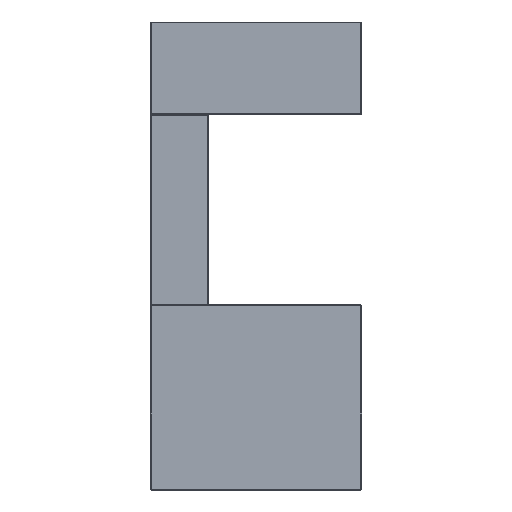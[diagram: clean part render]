
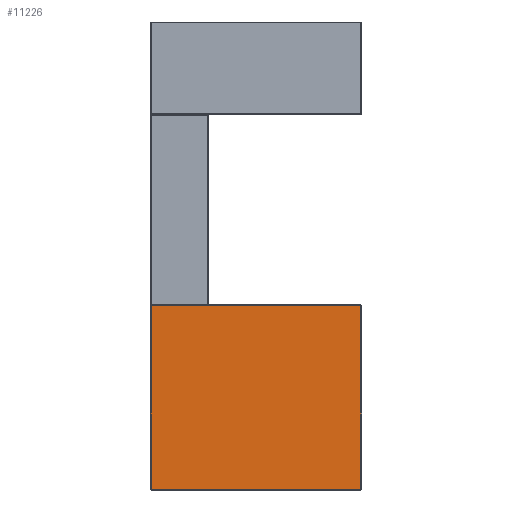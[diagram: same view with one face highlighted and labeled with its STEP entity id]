
A CAD part, front view. The second image highlights one B-rep face of the part: STEP entity #11226.
In plain terms, the highlighted planar face has unit normal (0, -1, 0).
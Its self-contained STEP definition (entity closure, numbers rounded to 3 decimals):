
#900=LINE('',#19938,#1893);
#901=LINE('',#19941,#1894);
#902=LINE('',#19943,#1895);
#903=LINE('',#19945,#1896);
#1893=VECTOR('',#15505,1000.);
#1894=VECTOR('',#15506,1000.);
#1895=VECTOR('',#15507,1000.);
#1896=VECTOR('',#15508,1000.);
#2509=PLANE('',#13070);
#5141=ORIENTED_EDGE('',*,*,#7520,.T.);
#5142=ORIENTED_EDGE('',*,*,#7521,.T.);
#5143=ORIENTED_EDGE('',*,*,#7522,.T.);
#5144=ORIENTED_EDGE('',*,*,#7523,.T.);
#7520=EDGE_CURVE('',#8822,#8823,#900,.T.);
#7521=EDGE_CURVE('',#8823,#8824,#901,.T.);
#7522=EDGE_CURVE('',#8824,#8825,#902,.T.);
#7523=EDGE_CURVE('',#8825,#8822,#903,.T.);
#8822=VERTEX_POINT('',#19939);
#8823=VERTEX_POINT('',#19940);
#8824=VERTEX_POINT('',#19942);
#8825=VERTEX_POINT('',#19944);
#9688=EDGE_LOOP('',(#5141,#5142,#5143,#5144));
#10476=FACE_BOUND('',#9688,.T.);
#11226=ADVANCED_FACE('',(#10476),#2509,.F.);
#13070=AXIS2_PLACEMENT_3D('',#19937,#15503,#15504);
#15503=DIRECTION('',(0.,1.,0.));
#15504=DIRECTION('',(-1.,0.,0.));
#15505=DIRECTION('',(-1.,0.,0.));
#15506=DIRECTION('',(0.,0.,-1.));
#15507=DIRECTION('',(1.,0.,0.));
#15508=DIRECTION('',(0.,0.,1.));
#19937=CARTESIAN_POINT('',(-217.5,0.,531.));
#19938=CARTESIAN_POINT('',(-196.,0.,535.));
#19939=CARTESIAN_POINT('',(216.,0.,535.));
#19940=CARTESIAN_POINT('',(-391.,0.,535.));
#19941=CARTESIAN_POINT('',(-391.,0.,531.));
#19942=CARTESIAN_POINT('',(-391.,0.,2.));
#19943=CARTESIAN_POINT('',(-217.5,0.,2.));
#19944=CARTESIAN_POINT('',(216.,0.,2.));
#19945=CARTESIAN_POINT('',(216.,0.,535.));
